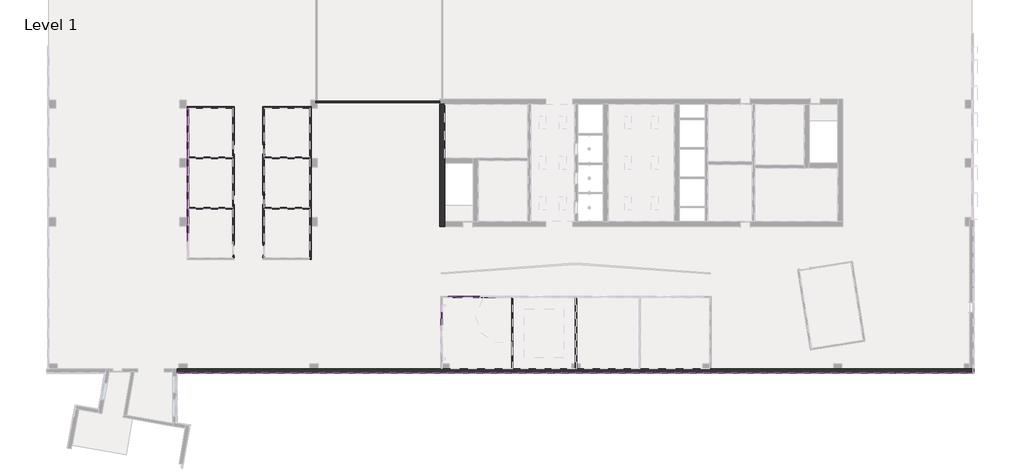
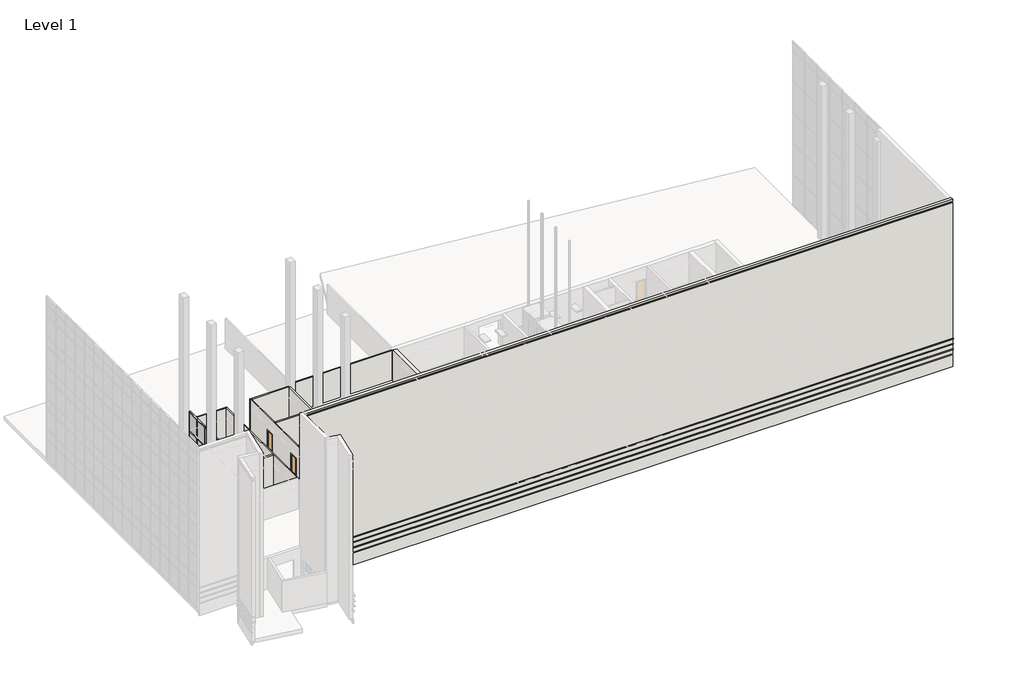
# One storey, part 6 of 23: 50 members, 18 plates, 15 walls, 4 doors, 3 proxies.
"""IFC4 building model written with IfcOpenShell, lengths in millimetres."""

from ifc_helpers import new_model, si_unit, frame, origin, origin_with_axes, place, context, project, spatial, polyline, outline, extrude, faceted_brep, transform, mapped, element, save
from components import door_82111de5, door_92889684, member_fc09b6aa, member_75074519, member_9597caa3, member_b2bde9e6, member_131a91bd, member_8e4b14e5, member_6186cc23, member_73a57e35, member_5adcf121, member_e7ed5742, member_d635bea1, member_19b6149e, system_panel_glazed_f771dc8d, system_panel_glazed_f1d9fa5b, system_panel_glazed_9bc9b24f, system_panel_glazed_76e4750d, system_panel_solid_9531ad7b, system_panel_solid_2d037642

model = new_model("IFC4")

# Units and contexts
model_context = context("Model", 3, world=origin())
ifc_project = project(units=[si_unit("LENGTHUNIT", "METRE", prefix="MILLI")], contexts=[model_context])

# Site, building, storey
site = spatial("IfcSite", under=ifc_project)
building = spatial("IfcBuilding", under=site)
storey = spatial("IfcBuildingStorey", under=building, Name="Level 1", Elevation=0.0)

# Proxies
placement = place(None, origin())
element("IfcBuildingElementProxy", 1, Name="Reveals", at=placement, inside=storey, context=model_context, shape_type="SweptSolid", body=[
    extrude(outline(polyline([(15157.6054088, -28056.8103492), (15249.6804088, -28148.8853492), (-57009.4125003, -28148.8853492), (-57101.4875003, -28056.8103492), (15157.6054088, -28056.8103492)])), frame((0.0, 0.0, 1625.6), z_axis=(0.0, 0.0, 1.0), x_axis=(1.0, 0.0, 0.0)), (0.0, 0.0, 1.0), 67.7333333),
])
element("IfcBuildingElementProxy", 2, Name="Reveals", at=placement, inside=storey, context=model_context, shape_type="SweptSolid", body=[
    extrude(outline(polyline([(15157.6054088, -28056.8103492), (15249.6804088, -28148.8853492), (-57009.4125003, -28148.8853492), (-57101.4875003, -28056.8103492), (15157.6054088, -28056.8103492)])), frame((0.0, 0.0, 2235.2), z_axis=(0.0, 0.0, 1.0), x_axis=(1.0, 0.0, 0.0)), (0.0, 0.0, 1.0), 67.7333333),
])
element("IfcBuildingElementProxy", 3, Name="Reveals", at=placement, inside=storey, context=model_context, shape_type="SweptSolid", body=[
    extrude(outline(polyline([(15157.6054088, -28056.8103492), (15249.6804088, -28148.8853492), (-57009.4125003, -28148.8853492), (-57101.4875003, -28056.8103492), (15157.6054088, -28056.8103492)])), frame((0.0, 0.0, 2844.8), z_axis=(0.0, 0.0, 1.0), x_axis=(1.0, 0.0, 0.0)), (0.0, 0.0, 1.0), 67.7333333),
])

# Doors
door_shape = door_82111de5(model_context)
element("IfcDoor", 4, ObjectType="Single-Flush : 34\" x 80\"", at=placement, inside=storey, context=model_context, shape_type="MappedRepresentation", body=[
    mapped(door_shape, transform((-51923.5856498, -12385.0103492, 0.0), x_axis=(0.0, -1.0, 0.0), y_axis=(1.0, 0.0, 0.0), z_axis=(0.0, 0.0, 1.0))),
])
element("IfcDoor", 5, ObjectType="Single-Flush : 34\" x 80\"", at=placement, inside=storey, context=model_context, shape_type="MappedRepresentation", body=[
    mapped(door_shape, transform((-51923.5856498, -7813.0103492, 0.0), x_axis=(0.0, -1.0, 0.0), y_axis=(1.0, 0.0, 0.0), z_axis=(0.0, 0.0, 1.0))),
])
door_2_shape = door_92889684(model_context)
element("IfcDoor", 6, ObjectType="Single-Flush : 34\" x 80\"", at=placement, inside=storey, context=model_context, shape_type="MappedRepresentation", body=[
    mapped(door_2_shape, transform((-49194.8999355, -12385.0103492, 0.0), x_axis=(0.0, -1.0, 0.0), y_axis=(1.0, 0.0, 0.0), z_axis=(0.0, 0.0, 1.0))),
])
element("IfcDoor", 7, ObjectType="Single-Flush : 34\" x 80\"", at=placement, inside=storey, context=model_context, shape_type="MappedRepresentation", body=[
    mapped(door_2_shape, transform((-49194.8999355, -7813.0103492, 0.0), x_axis=(0.0, -1.0, 0.0), y_axis=(1.0, 0.0, 0.0), z_axis=(0.0, 0.0, 1.0))),
])

# Members
member_shape = member_fc09b6aa(model_context)
element("IfcMember", 8, ObjectType="Rectangular Mullion : 2.5\" x 5\" rectangular", at=placement, inside=storey, context=model_context, shape_type="MappedRepresentation", body=[
    mapped(member_shape, transform((-56063.7856498, -14635.7325714, 2413.0), x_axis=(0.0, 0.0, 1.0), y_axis=(1.0, 0.0, 0.0), z_axis=(0.0, 1.0, 0.0))),
])
element("IfcMember", 9, ObjectType="Rectangular Mullion : 2.5\" x 5\" rectangular", at=placement, inside=storey, context=model_context, shape_type="MappedRepresentation", body=[
    mapped(member_shape, transform((-56063.7856498, -13125.8436825, 2413.0), x_axis=(0.0, 0.0, 1.0), y_axis=(1.0, 0.0, 0.0), z_axis=(0.0, 1.0, 0.0))),
])
element("IfcMember", 10, ObjectType="Rectangular Mullion : 2.5\" x 5\" rectangular", at=placement, inside=storey, context=model_context, shape_type="MappedRepresentation", body=[
    mapped(member_shape, transform((-56063.7856498, -11615.9547936, 2413.0), x_axis=(0.0, 0.0, 1.0), y_axis=(1.0, 0.0, 0.0), z_axis=(0.0, 1.0, 0.0))),
])
element("IfcMember", 11, ObjectType="Rectangular Mullion : 2.5\" x 5\" rectangular", at=placement, inside=storey, context=model_context, shape_type="MappedRepresentation", body=[
    mapped(member_shape, transform((-56063.7856498, -10106.0659048, 2413.0), x_axis=(0.0, 0.0, 1.0), y_axis=(1.0, 0.0, 0.0), z_axis=(0.0, 1.0, 0.0))),
])
element("IfcMember", 12, ObjectType="Rectangular Mullion : 2.5\" x 5\" rectangular", at=placement, inside=storey, context=model_context, shape_type="MappedRepresentation", body=[
    mapped(member_shape, transform((-56063.7856498, -8596.1770159, 2413.0), x_axis=(0.0, 0.0, 1.0), y_axis=(1.0, 0.0, 0.0), z_axis=(0.0, 1.0, 0.0))),
])
element("IfcMember", 13, ObjectType="Rectangular Mullion : 2.5\" x 5\" rectangular", at=placement, inside=storey, context=model_context, shape_type="MappedRepresentation", body=[
    mapped(member_shape, transform((-56063.7856498, -7086.288127, 2413.0), x_axis=(0.0, 0.0, 1.0), y_axis=(1.0, 0.0, 0.0), z_axis=(0.0, 1.0, 0.0))),
])
element("IfcMember", 14, ObjectType="Rectangular Mullion : 2.5\" x 5\" rectangular", at=placement, inside=storey, context=model_context, shape_type="MappedRepresentation", body=[
    mapped(member_shape, transform((-56063.7856498, -5576.3992381, 2413.0), x_axis=(0.0, 0.0, 1.0), y_axis=(1.0, 0.0, 0.0), z_axis=(0.0, 1.0, 0.0))),
])
member_2_shape = member_75074519(model_context)
element("IfcMember", 15, ObjectType="Rectangular Mullion : 2.5\" x 5\" rectangular", at=placement, inside=storey, context=model_context, shape_type="MappedRepresentation", body=[
    mapped(member_2_shape, transform((-33067.7142212, -22546.5978492, 2413.0), x_axis=(0.0, 0.0, 1.0), y_axis=(1.0, 0.0, 0.0), z_axis=(0.0, 1.0, 0.0))),
])
member_3_shape = member_9597caa3(model_context)
element("IfcMember", 16, ObjectType="Rectangular Mullion : 2.5\" x 5\" rectangular", at=placement, inside=storey, context=model_context, shape_type="MappedRepresentation", body=[
    mapped(member_3_shape, transform((-56063.7856498, -14635.7325714, 38.1), x_axis=(0.0, 1.0, 0.0), y_axis=(1.0, 0.0, 0.0), z_axis=(0.0, 0.0, -1.0))),
])
element("IfcMember", 17, ObjectType="Rectangular Mullion : 2.5\" x 5\" rectangular", at=placement, inside=storey, context=model_context, shape_type="MappedRepresentation", body=[
    mapped(member_3_shape, transform((-56063.7856498, -13125.8436825, 38.1), x_axis=(0.0, 1.0, 0.0), y_axis=(1.0, 0.0, 0.0), z_axis=(0.0, 0.0, -1.0))),
])
element("IfcMember", 18, ObjectType="Rectangular Mullion : 2.5\" x 5\" rectangular", at=placement, inside=storey, context=model_context, shape_type="MappedRepresentation", body=[
    mapped(member_3_shape, transform((-56063.7856498, -11615.9547936, 38.1), x_axis=(0.0, 1.0, 0.0), y_axis=(1.0, 0.0, 0.0), z_axis=(0.0, 0.0, -1.0))),
])
element("IfcMember", 19, ObjectType="Rectangular Mullion : 2.5\" x 5\" rectangular", at=placement, inside=storey, context=model_context, shape_type="MappedRepresentation", body=[
    mapped(member_3_shape, transform((-56063.7856498, -10106.0659048, 38.1), x_axis=(0.0, 1.0, 0.0), y_axis=(1.0, 0.0, 0.0), z_axis=(0.0, 0.0, -1.0))),
])
element("IfcMember", 20, ObjectType="Rectangular Mullion : 2.5\" x 5\" rectangular", at=placement, inside=storey, context=model_context, shape_type="MappedRepresentation", body=[
    mapped(member_3_shape, transform((-56063.7856498, -8596.1770159, 38.1), x_axis=(0.0, 1.0, 0.0), y_axis=(1.0, 0.0, 0.0), z_axis=(0.0, 0.0, -1.0))),
])
element("IfcMember", 21, ObjectType="Rectangular Mullion : 2.5\" x 5\" rectangular", at=placement, inside=storey, context=model_context, shape_type="MappedRepresentation", body=[
    mapped(member_3_shape, transform((-56063.7856498, -7086.288127, 38.1), x_axis=(0.0, 1.0, 0.0), y_axis=(1.0, 0.0, 0.0), z_axis=(0.0, 0.0, -1.0))),
])
element("IfcMember", 22, ObjectType="Rectangular Mullion : 2.5\" x 5\" rectangular", at=placement, inside=storey, context=model_context, shape_type="MappedRepresentation", body=[
    mapped(member_3_shape, transform((-56063.7856498, -5576.3992381, 38.1), x_axis=(0.0, 1.0, 0.0), y_axis=(1.0, 0.0, 0.0), z_axis=(0.0, 0.0, -1.0))),
])
member_4_shape = member_b2bde9e6(model_context)
element("IfcMember", 23, ObjectType="Rectangular Mullion : 2.5\" x 5\" rectangular", at=placement, inside=storey, context=model_context, shape_type="MappedRepresentation", body=[
    mapped(member_4_shape, transform((-56063.7856498, -4066.5103492, 38.1), x_axis=(0.0, 1.0, 0.0), y_axis=(1.0, 0.0, 0.0), z_axis=(0.0, 0.0, -1.0))),
])
member_5_shape = member_131a91bd(model_context)
element("IfcMember", 24, ObjectType="Rectangular Mullion : 2.5\" x 5\" rectangular", at=placement, inside=storey, context=model_context, shape_type="MappedRepresentation", body=[
    mapped(member_5_shape, transform((-56063.7856498, -4066.5103492, 4673.6), x_axis=(0.0, 0.0, 1.0), y_axis=(1.0, 0.0, 0.0), z_axis=(0.0, 1.0, 0.0))),
])
element("IfcMember", 25, ObjectType="Rectangular Mullion : 2.5\" x 5\" rectangular", at=placement, inside=storey, context=model_context, shape_type="MappedRepresentation", body=[
    mapped(member_5_shape, transform((-56063.7856498, -14635.7325714, 4673.6), x_axis=(0.0, 0.0, 1.0), y_axis=(1.0, 0.0, 0.0), z_axis=(0.0, 1.0, 0.0))),
])
element("IfcMember", 26, ObjectType="Rectangular Mullion : 2.5\" x 5\" rectangular", at=placement, inside=storey, context=model_context, shape_type="MappedRepresentation", body=[
    mapped(member_5_shape, transform((-56063.7856498, -13125.8436825, 4673.6), x_axis=(0.0, 0.0, 1.0), y_axis=(1.0, 0.0, 0.0), z_axis=(0.0, 1.0, 0.0))),
])
element("IfcMember", 27, ObjectType="Rectangular Mullion : 2.5\" x 5\" rectangular", at=placement, inside=storey, context=model_context, shape_type="MappedRepresentation", body=[
    mapped(member_5_shape, transform((-56063.7856498, -11615.9547936, 4673.6), x_axis=(0.0, 0.0, 1.0), y_axis=(1.0, 0.0, 0.0), z_axis=(0.0, 1.0, 0.0))),
])
element("IfcMember", 28, ObjectType="Rectangular Mullion : 2.5\" x 5\" rectangular", at=placement, inside=storey, context=model_context, shape_type="MappedRepresentation", body=[
    mapped(member_5_shape, transform((-56063.7856498, -10106.0659048, 4673.6), x_axis=(0.0, 0.0, 1.0), y_axis=(1.0, 0.0, 0.0), z_axis=(0.0, 1.0, 0.0))),
])
element("IfcMember", 29, ObjectType="Rectangular Mullion : 2.5\" x 5\" rectangular", at=placement, inside=storey, context=model_context, shape_type="MappedRepresentation", body=[
    mapped(member_5_shape, transform((-56063.7856498, -8596.1770159, 4673.6), x_axis=(0.0, 0.0, 1.0), y_axis=(1.0, 0.0, 0.0), z_axis=(0.0, 1.0, 0.0))),
])
element("IfcMember", 30, ObjectType="Rectangular Mullion : 2.5\" x 5\" rectangular", at=placement, inside=storey, context=model_context, shape_type="MappedRepresentation", body=[
    mapped(member_5_shape, transform((-56063.7856498, -7086.288127, 4673.6), x_axis=(0.0, 0.0, 1.0), y_axis=(1.0, 0.0, 0.0), z_axis=(0.0, 1.0, 0.0))),
])
element("IfcMember", 31, ObjectType="Rectangular Mullion : 2.5\" x 5\" rectangular", at=placement, inside=storey, context=model_context, shape_type="MappedRepresentation", body=[
    mapped(member_5_shape, transform((-56063.7856498, -5576.3992381, 4673.6), x_axis=(0.0, 0.0, 1.0), y_axis=(1.0, 0.0, 0.0), z_axis=(0.0, 1.0, 0.0))),
])
element("IfcMember", 32, ObjectType="Rectangular Mullion : 2.5\" x 5\" rectangular", at=placement, inside=storey, context=model_context, shape_type="MappedRepresentation", body=[
    mapped(member_5_shape, transform((-56063.7856498, -14635.7325714, -25.4), x_axis=(0.0, 0.0, -1.0), y_axis=(1.0, 0.0, 0.0), z_axis=(0.0, -1.0, 0.0))),
])
element("IfcMember", 33, ObjectType="Rectangular Mullion : 2.5\" x 5\" rectangular", at=placement, inside=storey, context=model_context, shape_type="MappedRepresentation", body=[
    mapped(member_5_shape, transform((-56063.7856498, -13125.8436825, -25.4), x_axis=(0.0, 0.0, -1.0), y_axis=(1.0, 0.0, 0.0), z_axis=(0.0, -1.0, 0.0))),
])
element("IfcMember", 34, ObjectType="Rectangular Mullion : 2.5\" x 5\" rectangular", at=placement, inside=storey, context=model_context, shape_type="MappedRepresentation", body=[
    mapped(member_5_shape, transform((-56063.7856498, -11615.9547936, -25.4), x_axis=(0.0, 0.0, -1.0), y_axis=(1.0, 0.0, 0.0), z_axis=(0.0, -1.0, 0.0))),
])
element("IfcMember", 35, ObjectType="Rectangular Mullion : 2.5\" x 5\" rectangular", at=placement, inside=storey, context=model_context, shape_type="MappedRepresentation", body=[
    mapped(member_5_shape, transform((-56063.7856498, -10106.0659048, -25.4), x_axis=(0.0, 0.0, -1.0), y_axis=(1.0, 0.0, 0.0), z_axis=(0.0, -1.0, 0.0))),
])
element("IfcMember", 36, ObjectType="Rectangular Mullion : 2.5\" x 5\" rectangular", at=placement, inside=storey, context=model_context, shape_type="MappedRepresentation", body=[
    mapped(member_5_shape, transform((-56063.7856498, -8596.1770159, -25.4), x_axis=(0.0, 0.0, -1.0), y_axis=(1.0, 0.0, 0.0), z_axis=(0.0, -1.0, 0.0))),
])
element("IfcMember", 37, ObjectType="Rectangular Mullion : 2.5\" x 5\" rectangular", at=placement, inside=storey, context=model_context, shape_type="MappedRepresentation", body=[
    mapped(member_5_shape, transform((-56063.7856498, -7086.288127, -25.4), x_axis=(0.0, 0.0, -1.0), y_axis=(1.0, 0.0, 0.0), z_axis=(0.0, -1.0, 0.0))),
])
element("IfcMember", 38, ObjectType="Rectangular Mullion : 2.5\" x 5\" rectangular", at=placement, inside=storey, context=model_context, shape_type="MappedRepresentation", body=[
    mapped(member_5_shape, transform((-56063.7856498, -5576.3992381, -25.4), x_axis=(0.0, 0.0, -1.0), y_axis=(1.0, 0.0, 0.0), z_axis=(0.0, -1.0, 0.0))),
])
member_6_shape = member_8e4b14e5(model_context)
element("IfcMember", 39, ObjectType="Rectangular Mullion : 2.5\" x 5\" rectangular", at=placement, inside=storey, context=model_context, shape_type="MappedRepresentation", body=[
    mapped(member_6_shape, transform((-56063.7856498, -4130.0103492, 2413.0), x_axis=(0.0, 0.0, 1.0), y_axis=(1.0, 0.0, 0.0), z_axis=(0.0, 1.0, 0.0))),
])
member_7_shape = member_6186cc23(model_context)
element("IfcMember", 40, ObjectType="Rectangular Mullion : 2.5\" x 5\" rectangular", at=placement, inside=storey, context=model_context, shape_type="MappedRepresentation", body=[
    mapped(member_7_shape, transform((-56063.7856498, -14635.7325714, 2444.75), x_axis=(0.0, 1.0, 0.0), y_axis=(1.0, 0.0, 0.0), z_axis=(0.0, 0.0, -1.0))),
])
element("IfcMember", 41, ObjectType="Rectangular Mullion : 2.5\" x 5\" rectangular", at=placement, inside=storey, context=model_context, shape_type="MappedRepresentation", body=[
    mapped(member_7_shape, transform((-56063.7856498, -13125.8436825, 2444.75), x_axis=(0.0, 1.0, 0.0), y_axis=(1.0, 0.0, 0.0), z_axis=(0.0, 0.0, -1.0))),
])
element("IfcMember", 42, ObjectType="Rectangular Mullion : 2.5\" x 5\" rectangular", at=placement, inside=storey, context=model_context, shape_type="MappedRepresentation", body=[
    mapped(member_7_shape, transform((-56063.7856498, -11615.9547936, 2444.75), x_axis=(0.0, 1.0, 0.0), y_axis=(1.0, 0.0, 0.0), z_axis=(0.0, 0.0, -1.0))),
])
element("IfcMember", 43, ObjectType="Rectangular Mullion : 2.5\" x 5\" rectangular", at=placement, inside=storey, context=model_context, shape_type="MappedRepresentation", body=[
    mapped(member_7_shape, transform((-56063.7856498, -10106.0659048, 2444.75), x_axis=(0.0, 1.0, 0.0), y_axis=(1.0, 0.0, 0.0), z_axis=(0.0, 0.0, -1.0))),
])
element("IfcMember", 44, ObjectType="Rectangular Mullion : 2.5\" x 5\" rectangular", at=placement, inside=storey, context=model_context, shape_type="MappedRepresentation", body=[
    mapped(member_7_shape, transform((-56063.7856498, -8596.1770159, 2444.75), x_axis=(0.0, 1.0, 0.0), y_axis=(1.0, 0.0, 0.0), z_axis=(0.0, 0.0, -1.0))),
])
element("IfcMember", 45, ObjectType="Rectangular Mullion : 2.5\" x 5\" rectangular", at=placement, inside=storey, context=model_context, shape_type="MappedRepresentation", body=[
    mapped(member_7_shape, transform((-56063.7856498, -7086.288127, 2444.75), x_axis=(0.0, 1.0, 0.0), y_axis=(1.0, 0.0, 0.0), z_axis=(0.0, 0.0, -1.0))),
])
element("IfcMember", 46, ObjectType="Rectangular Mullion : 2.5\" x 5\" rectangular", at=placement, inside=storey, context=model_context, shape_type="MappedRepresentation", body=[
    mapped(member_7_shape, transform((-56063.7856498, -5576.3992381, 2444.75), x_axis=(0.0, 1.0, 0.0), y_axis=(1.0, 0.0, 0.0), z_axis=(0.0, 0.0, -1.0))),
])
member_8_shape = member_73a57e35(model_context)
element("IfcMember", 47, ObjectType="Rectangular Mullion : 2.5\" x 5\" rectangular", at=placement, inside=storey, context=model_context, shape_type="MappedRepresentation", body=[
    mapped(member_8_shape, transform((-56063.7856498, -4066.5103492, 2413.0), x_axis=(0.0, 1.0, 0.0), y_axis=(1.0, 0.0, 0.0), z_axis=(0.0, 0.0, -1.0))),
])
member_9_shape = member_5adcf121(model_context)
element("IfcMember", 48, ObjectType="Rectangular Mullion : 2.5\" x 5\" rectangular", at=placement, inside=storey, context=model_context, shape_type="MappedRepresentation", body=[
    mapped(member_9_shape, transform((-33067.7142212, -23765.7978492, 38.1), x_axis=(0.0, 1.0, 0.0), y_axis=(1.0, 0.0, 0.0), z_axis=(0.0, 0.0, -1.0))),
])
element("IfcMember", 49, ObjectType="Rectangular Mullion : 2.5\" x 5\" rectangular", at=placement, inside=storey, context=model_context, shape_type="MappedRepresentation", body=[
    mapped(member_9_shape, transform((-30990.1302926, -21198.8103492, 38.1), x_axis=(1.0, 0.0, 0.0), y_axis=(0.0, -1.0, 0.0), z_axis=(0.0, 0.0, -1.0))),
])
member_10_shape = member_e7ed5742(model_context)
element("IfcMember", 50, ObjectType="Rectangular Mullion : 2.5\" x 5\" rectangular", at=placement, inside=storey, context=model_context, shape_type="MappedRepresentation", body=[
    mapped(member_10_shape, transform((-33067.7142212, -22546.5978492, 38.1), x_axis=(0.0, 1.0, 0.0), y_axis=(1.0, 0.0, 0.0), z_axis=(0.0, 0.0, -1.0))),
])
element("IfcMember", 51, ObjectType="Rectangular Mullion : 2.5\" x 5\" rectangular", at=placement, inside=storey, context=model_context, shape_type="MappedRepresentation", body=[
    mapped(member_10_shape, transform((-32436.3427926, -21198.8103492, 2349.5), x_axis=(-1.0, 0.0, 0.0), y_axis=(0.0, -1.0, 0.0), z_axis=(0.0, 0.0, 1.0))),
])
member_11_shape = member_d635bea1(model_context)
element("IfcMember", 52, ObjectType="Rectangular Mullion : 2.5\" x 5\" rectangular", at=placement, inside=storey, context=model_context, shape_type="MappedRepresentation", body=[
    mapped(member_11_shape, transform((-33067.7142212, -23797.5478492, -25.4), x_axis=(0.0, 0.0, -1.0), y_axis=(1.0, 0.0, 0.0), z_axis=(0.0, -1.0, 0.0))),
])
member_12_shape = member_19b6149e(model_context)
element("IfcMember", 53, ObjectType="Rectangular Mullion : 2.5\" x 5\" rectangular", at=placement, inside=storey, context=model_context, shape_type="MappedRepresentation", body=[
    mapped(member_12_shape, transform((-30990.1302926, -21198.8103492, 2413.0), x_axis=(0.0, 0.0, 1.0), y_axis=(0.0, -1.0, 0.0), z_axis=(1.0, 0.0, 0.0))),
])
element("IfcMember", 54, ObjectType="Rectangular Mullion : 2.5\" x 5\" rectangular", at=placement, inside=storey, context=model_context, shape_type="MappedRepresentation", body=[
    mapped(member_12_shape, transform((-29543.9177926, -21198.8103492, 2413.0), x_axis=(0.0, 0.0, 1.0), y_axis=(0.0, -1.0, 0.0), z_axis=(1.0, 0.0, 0.0))),
])
element("IfcMember", 55, ObjectType="Rectangular Mullion : 2.5\" x 5\" rectangular", at=placement, inside=storey, context=model_context, shape_type="MappedRepresentation", body=[
    mapped(member_12_shape, transform((-32436.3427926, -21198.8103492, -25.4), x_axis=(0.0, 0.0, -1.0), y_axis=(0.0, -1.0, 0.0), z_axis=(-1.0, 0.0, 0.0))),
])
element("IfcMember", 56, ObjectType="Rectangular Mullion : 2.5\" x 5\" rectangular", at=placement, inside=storey, context=model_context, shape_type="MappedRepresentation", body=[
    mapped(member_12_shape, transform((-30990.1302926, -21198.8103492, -25.4), x_axis=(0.0, 0.0, -1.0), y_axis=(0.0, -1.0, 0.0), z_axis=(-1.0, 0.0, 0.0))),
])
element("IfcMember", 57, ObjectType="Rectangular Mullion : 2.5\" x 5\" rectangular", at=placement, inside=storey, context=model_context, shape_type="MappedRepresentation", body=[
    mapped(member_12_shape, transform((-29543.9177926, -21198.8103492, -25.4), x_axis=(0.0, 0.0, -1.0), y_axis=(0.0, -1.0, 0.0), z_axis=(-1.0, 0.0, 0.0))),
])

# Plates
system_panel_glazed_shape = system_panel_glazed_f771dc8d(model_context)
element("IfcPlate", 58, ObjectType="System Panel : Glazed", at=placement, inside=storey, context=model_context, shape_type="MappedRepresentation", body=[
    mapped(system_panel_glazed_shape, transform((-56063.7856498, -4837.3297936, 38.1), x_axis=(0.0, 1.0, 0.0), y_axis=(-1.0, 0.0, 0.0), z_axis=(0.0, 0.0, 1.0))),
])
system_panel_glazed_2_shape = system_panel_glazed_f1d9fa5b(model_context)
element("IfcPlate", 59, ObjectType="System Panel : Glazed", at=placement, inside=storey, context=model_context, shape_type="MappedRepresentation", body=[
    mapped(system_panel_glazed_2_shape, transform((-56063.7856498, -15390.6770159, 38.1), x_axis=(0.0, 1.0, 0.0), y_axis=(-1.0, 0.0, 0.0), z_axis=(0.0, 0.0, 1.0))),
])
element("IfcPlate", 60, ObjectType="System Panel : Glazed", at=placement, inside=storey, context=model_context, shape_type="MappedRepresentation", body=[
    mapped(system_panel_glazed_2_shape, transform((-56063.7856498, -13880.788127, 38.1), x_axis=(0.0, 1.0, 0.0), y_axis=(-1.0, 0.0, 0.0), z_axis=(0.0, 0.0, 1.0))),
])
element("IfcPlate", 61, ObjectType="System Panel : Glazed", at=placement, inside=storey, context=model_context, shape_type="MappedRepresentation", body=[
    mapped(system_panel_glazed_2_shape, transform((-56063.7856498, -12370.8992381, 38.1), x_axis=(0.0, 1.0, 0.0), y_axis=(-1.0, 0.0, 0.0), z_axis=(0.0, 0.0, 1.0))),
])
element("IfcPlate", 62, ObjectType="System Panel : Glazed", at=placement, inside=storey, context=model_context, shape_type="MappedRepresentation", body=[
    mapped(system_panel_glazed_2_shape, transform((-56063.7856498, -10861.0103492, 38.1), x_axis=(0.0, 1.0, 0.0), y_axis=(-1.0, 0.0, 0.0), z_axis=(0.0, 0.0, 1.0))),
])
element("IfcPlate", 63, ObjectType="System Panel : Glazed", at=placement, inside=storey, context=model_context, shape_type="MappedRepresentation", body=[
    mapped(system_panel_glazed_2_shape, transform((-56063.7856498, -9351.1214603, 38.1), x_axis=(0.0, 1.0, 0.0), y_axis=(-1.0, 0.0, 0.0), z_axis=(0.0, 0.0, 1.0))),
])
element("IfcPlate", 64, ObjectType="System Panel : Glazed", at=placement, inside=storey, context=model_context, shape_type="MappedRepresentation", body=[
    mapped(system_panel_glazed_2_shape, transform((-56063.7856498, -7841.2325714, 38.1), x_axis=(0.0, 1.0, 0.0), y_axis=(-1.0, 0.0, 0.0), z_axis=(0.0, 0.0, 1.0))),
])
element("IfcPlate", 65, ObjectType="System Panel : Glazed", at=placement, inside=storey, context=model_context, shape_type="MappedRepresentation", body=[
    mapped(system_panel_glazed_2_shape, transform((-56063.7856498, -6331.3436825, 38.1), x_axis=(0.0, 1.0, 0.0), y_axis=(-1.0, 0.0, 0.0), z_axis=(0.0, 0.0, 1.0))),
])
system_panel_glazed_3_shape = system_panel_glazed_9bc9b24f(model_context)
element("IfcPlate", 66, ObjectType="System Panel : Glazed", at=placement, inside=storey, context=model_context, shape_type="MappedRepresentation", body=[
    mapped(system_panel_glazed_3_shape, transform((-31697.3615426, -21198.8103492, 38.1), x_axis=(1.0, 0.0, 0.0), y_axis=(0.0, 1.0, 0.0), z_axis=(0.0, 0.0, 1.0))),
])
system_panel_glazed_4_shape = system_panel_glazed_76e4750d(model_context)
element("IfcPlate", 67, ObjectType="System Panel : Glazed", at=placement, inside=storey, context=model_context, shape_type="MappedRepresentation", body=[
    mapped(system_panel_glazed_4_shape, transform((-30267.0240426, -21198.8103492, 38.1), x_axis=(1.0, 0.0, 0.0), y_axis=(0.0, 1.0, 0.0), z_axis=(0.0, 0.0, 1.0))),
])
system_panel_solid_shape = system_panel_solid_9531ad7b(model_context)
element("IfcPlate", 68, ObjectType="System Panel : Solid", at=placement, inside=storey, context=model_context, shape_type="MappedRepresentation", body=[
    mapped(system_panel_solid_shape, transform((-56063.7856498, -4837.3297936, 2444.75), x_axis=(0.0, 1.0, 0.0), y_axis=(-1.0, 0.0, 0.0), z_axis=(0.0, 0.0, 1.0))),
])
system_panel_solid_2_shape = system_panel_solid_2d037642(model_context)
element("IfcPlate", 69, ObjectType="System Panel : Solid", at=placement, inside=storey, context=model_context, shape_type="MappedRepresentation", body=[
    mapped(system_panel_solid_2_shape, transform((-56063.7856498, -15390.6770159, 2444.75), x_axis=(0.0, 1.0, 0.0), y_axis=(-1.0, 0.0, 0.0), z_axis=(0.0, 0.0, 1.0))),
])
element("IfcPlate", 70, ObjectType="System Panel : Solid", at=placement, inside=storey, context=model_context, shape_type="MappedRepresentation", body=[
    mapped(system_panel_solid_2_shape, transform((-56063.7856498, -13880.788127, 2444.75), x_axis=(0.0, 1.0, 0.0), y_axis=(-1.0, 0.0, 0.0), z_axis=(0.0, 0.0, 1.0))),
])
element("IfcPlate", 71, ObjectType="System Panel : Solid", at=placement, inside=storey, context=model_context, shape_type="MappedRepresentation", body=[
    mapped(system_panel_solid_2_shape, transform((-56063.7856498, -12370.8992381, 2444.75), x_axis=(0.0, 1.0, 0.0), y_axis=(-1.0, 0.0, 0.0), z_axis=(0.0, 0.0, 1.0))),
])
element("IfcPlate", 72, ObjectType="System Panel : Solid", at=placement, inside=storey, context=model_context, shape_type="MappedRepresentation", body=[
    mapped(system_panel_solid_2_shape, transform((-56063.7856498, -10861.0103492, 2444.75), x_axis=(0.0, 1.0, 0.0), y_axis=(-1.0, 0.0, 0.0), z_axis=(0.0, 0.0, 1.0))),
])
element("IfcPlate", 73, ObjectType="System Panel : Solid", at=placement, inside=storey, context=model_context, shape_type="MappedRepresentation", body=[
    mapped(system_panel_solid_2_shape, transform((-56063.7856498, -9351.1214603, 2444.75), x_axis=(0.0, 1.0, 0.0), y_axis=(-1.0, 0.0, 0.0), z_axis=(0.0, 0.0, 1.0))),
])
element("IfcPlate", 74, ObjectType="System Panel : Solid", at=placement, inside=storey, context=model_context, shape_type="MappedRepresentation", body=[
    mapped(system_panel_solid_2_shape, transform((-56063.7856498, -7841.2325714, 2444.75), x_axis=(0.0, 1.0, 0.0), y_axis=(-1.0, 0.0, 0.0), z_axis=(0.0, 0.0, 1.0))),
])
element("IfcPlate", 75, ObjectType="System Panel : Solid", at=placement, inside=storey, context=model_context, shape_type="MappedRepresentation", body=[
    mapped(system_panel_solid_2_shape, transform((-56063.7856498, -6331.3436825, 2444.75), x_axis=(0.0, 1.0, 0.0), y_axis=(-1.0, 0.0, 0.0), z_axis=(0.0, 0.0, 1.0))),
])

# Walls
element("IfcWall", 76, ObjectType="Core-shaft 18\" Concrete", at=placement, inside=storey, context=model_context, shape_type="Brep", body=[
    faceted_brep([(-32750.2142212, -14823.4103492, 0.0), (-32750.2142212, -14366.2103492, 0.0), (-32750.2142212, -9032.2103492, 0.0), (-32750.2142212, -8575.0103492, 0.0), (-32750.2142212, -3698.2103492, 0.0), (-32750.2142212, -3698.2103492, 3657.6), (-32750.2142212, -8575.0103492, 3657.6), (-32750.2142212, -9032.2103492, 3657.6), (-32750.2142212, -14366.2103492, 3657.6), (-32750.2142212, -14823.4103492, 3657.6), (-33207.4142212, -14823.4103492, 0.0), (-33207.4142212, -14823.4103492, 3657.6), (-33207.4142212, -3698.2103492, 3657.6), (-33207.4142212, -3698.2103492, 0.0)], [[[0, 1, 2, 3, 4, 5, 6, 7, 8, 9]], [[10, 11, 12, 13]], [[4, 3, 2, 1, 0, 10, 13]], [[9, 8, 7, 6, 5, 12, 11]], [[0, 9, 11, 10]], [[4, 13, 12, 5]]]),
])
element("IfcWall", 77, ObjectType="Exterior - Brick and CMU on MTL. Stud", at=placement, inside=storey, context=model_context, shape_type="Brep", body=[
    faceted_brep([(15183.0054088, -27729.7853492, 0.0), (14830.5804088, -27729.7853492, 0.0), (-8623.8427926, -27729.7853492, 0.0), (-8750.8427926, -27729.7853492, 0.0), (-15018.2927926, -27729.7853492, 0.0), (-15145.2927926, -27729.7853492, 0.0), (-20814.0285069, -27729.7853492, 0.0), (-20941.0285069, -27729.7853492, 0.0), (-26587.9927926, -27729.7853492, 0.0), (-26714.9927926, -27729.7853492, 0.0), (-33004.2142212, -27729.7853492, 0.0), (-33131.2142212, -27729.7853492, 0.0), (-57076.0875003, -27729.7853492, 0.0), (-57076.0875003, -27729.7853492, 19304.0), (14830.5804088, -27729.7853492, 19304.0), (15183.0054088, -27729.7853492, 19304.0), (15183.0054088, -27729.7853492, 19100.8), (15090.9304088, -27729.7853492, 19100.8), (15090.9304088, -27729.7853492, 18897.6), (15183.0054088, -27729.7853492, 18897.6), (15183.0054088, -27729.7853492, 2912.5333333), (15157.6054088, -27729.7853492, 2912.5333333), (15157.6054088, -27729.7853492, 2844.8), (15183.0054088, -27729.7853492, 2844.8), (15183.0054088, -27729.7853492, 2302.9333333), (15157.6054088, -27729.7853492, 2302.9333333), (15157.6054088, -27729.7853492, 2235.2), (15183.0054088, -27729.7853492, 2235.2), (15183.0054088, -27729.7853492, 1693.3333333), (15157.6054088, -27729.7853492, 1693.3333333), (15157.6054088, -27729.7853492, 1625.6), (15183.0054088, -27729.7853492, 1625.6), (15183.0054088, -27729.7853492, 1085.85), (15090.9304088, -27729.7853492, 1085.85), (15090.9304088, -27729.7853492, 1016.0), (15183.0054088, -27729.7853492, 1016.0), (15183.0054088, -28082.2103492, 19304.0), (-57076.0875003, -28082.2103492, 19304.0), (-57076.0875003, -28082.2103492, 19100.8), (15183.0054088, -28082.2103492, 19100.8), (-57076.0875003, -28082.2103492, -406.4), (15183.0054088, -28082.2103492, -406.4), (15183.0054088, -28082.2103492, 1016.0), (-57076.0875003, -28082.2103492, 1016.0), (-57076.0875003, -28082.2103492, 1693.3333333), (15183.0054088, -28082.2103492, 1693.3333333), (15183.0054088, -28082.2103492, 2235.2), (-57076.0875003, -28082.2103492, 2235.2), (15183.0054088, -28082.2103492, 1625.6), (-57076.0875003, -28082.2103492, 1625.6), (-57076.0875003, -28082.2103492, 1085.85), (15183.0054088, -28082.2103492, 1085.85), (-57076.0875003, -28082.2103492, 2302.9333333), (15183.0054088, -28082.2103492, 2302.9333333), (15183.0054088, -28082.2103492, 2844.8), (-57076.0875003, -28082.2103492, 2844.8), (-57076.0875003, -28082.2103492, 2912.5333333), (15183.0054088, -28082.2103492, 2912.5333333), (15183.0054088, -28082.2103492, 18897.6), (-57076.0875003, -28082.2103492, 18897.6), (15183.0054088, -27990.1353492, 0.0), (15090.9304088, -27990.1353492, 0.0), (-57076.0875003, -27990.1353492, 0.0), (15183.0054088, -27990.1353492, -406.4), (15090.9304088, -27990.1353492, -406.4), (-57076.0875003, -27990.1353492, -406.4), (15157.6054088, -28056.8103492, 1693.3333333), (-57076.0875003, -28056.8103492, 1693.3333333), (15157.6054088, -28056.8103492, 1625.6), (-57076.0875003, -28056.8103492, 1625.6), (15157.6054088, -28056.8103492, 2302.9333333), (-57076.0875003, -28056.8103492, 2302.9333333), (15157.6054088, -28056.8103492, 2235.2), (-57076.0875003, -28056.8103492, 2235.2), (15157.6054088, -28056.8103492, 2912.5333333), (-57076.0875003, -28056.8103492, 2912.5333333), (15157.6054088, -28056.8103492, 2844.8), (-57076.0875003, -28056.8103492, 2844.8), (15090.9304088, -27990.1353492, 1085.85), (-57076.0875003, -27990.1353492, 1085.85), (15090.9304088, -27990.1353492, 1016.0), (-57076.0875003, -27990.1353492, 1016.0), (15090.9304088, -27990.1353492, 18897.6), (-57076.0875003, -27990.1353492, 18897.6), (15090.9304088, -27990.1353492, 19100.8), (-57076.0875003, -27990.1353492, 19100.8)], [[[0, 1, 2, 3, 4, 5, 6, 7, 8, 9, 10, 11, 12, 13, 14, 15, 16, 17, 18, 19, 20, 21, 22, 23, 24, 25, 26, 27, 28, 29, 30, 31, 32, 33, 34, 35]], [[36, 37, 38, 39]], [[40, 41, 42, 43]], [[44, 45, 46, 47]], [[48, 49, 50, 51]], [[52, 53, 54, 55]], [[56, 57, 58, 59]], [[15, 14, 13, 37, 36]], [[12, 11, 10, 9, 8, 7, 6, 5, 4, 3, 2, 1, 0, 60, 61, 62]], [[62, 61, 60, 63, 64, 65]], [[66, 29, 28, 45, 44, 67]], [[30, 68, 69, 49, 48, 31]], [[66, 68, 30, 29]], [[68, 66, 67, 69]], [[70, 25, 24, 53, 52, 71]], [[26, 72, 73, 47, 46, 27]], [[70, 72, 26, 25]], [[72, 70, 71, 73]], [[74, 21, 20, 57, 56, 75]], [[22, 76, 77, 55, 54, 23]], [[74, 76, 22, 21]], [[76, 74, 75, 77]], [[78, 33, 32, 51, 50, 79]], [[34, 80, 81, 43, 42, 35]], [[78, 80, 34, 33]], [[80, 78, 79, 81]], [[18, 82, 83, 59, 58, 19]], [[84, 82, 18, 17]], [[85, 84, 17, 16, 39, 38]], [[82, 84, 85, 83]], [[37, 13, 12, 62, 65, 40, 43, 81, 79, 50, 49, 69, 67, 44, 47, 73, 71, 52, 55, 77, 75, 56, 59, 83, 85, 38]], [[15, 36, 39, 16]], [[45, 28, 27, 46]], [[31, 48, 51, 32]], [[53, 24, 23, 54]], [[57, 20, 19, 58]], [[60, 0, 35, 42, 41, 63]], [[41, 40, 65, 64, 63]]]),
])
element("IfcWall", 78, ObjectType="Generic - 5\"", at=placement, inside=storey, context=model_context, shape_type="Brep", body=[
    faceted_brep([(-33207.4142212, -3412.4603492, 0.0), (-44332.6142212, -3412.4603492, 0.0), (-44459.6142212, -3412.4603492, 0.0), (-44459.6142212, -3412.4603492, 3530.6), (-44332.6142212, -3412.4603492, 3530.6), (-33207.4142212, -3412.4603492, 3530.6), (-33207.4142212, -3539.4603492, 0.0), (-33207.4142212, -3539.4603492, 3530.6), (-44459.6142212, -3539.4603492, 3530.6), (-44459.6142212, -3539.4603492, 0.0)], [[[0, 1, 2, 3, 4, 5]], [[6, 7, 8, 9]], [[2, 1, 0, 6, 9]], [[5, 4, 3, 8, 7]], [[3, 2, 9, 8]], [[0, 5, 7, 6]]]),
])
element("IfcWall", 79, ObjectType="Interior - Generic - 5\"", at=placement, inside=storey, context=model_context, shape_type="SweptSolid", body=[
    extrude(outline(polyline([(-20814.0285069, -21262.3103492), (-20814.0285069, -27729.7853492), (-20941.0285069, -27729.7853492), (-20941.0285069, -21262.3103492), (-20814.0285069, -21262.3103492)])), origin_with_axes(), (0.0, 0.0, 1.0), 3657.6),
])
element("IfcWall", 80, ObjectType="Interior - Generic - 5\"", at=placement, inside=storey, context=model_context, shape_type="Brep", body=[
    faceted_brep([(-44864.1999355, -3939.5103492, 0.0), (-49258.3999355, -3939.5103492, 0.0), (-49258.3999355, -3939.5103492, 3657.6), (-44864.1999355, -3939.5103492, 3657.6), (-44864.1999355, -4066.5103492, 0.0), (-44864.1999355, -4066.5103492, 3657.6), (-44991.1999355, -4066.5103492, 3657.6), (-49131.3999355, -4066.5103492, 3657.6), (-49258.3999355, -4066.5103492, 3657.6), (-49258.3999355, -4066.5103492, 0.0), (-49131.3999355, -4066.5103492, 0.0), (-44991.1999355, -4066.5103492, 0.0)], [[[0, 1, 2, 3]], [[4, 5, 6, 7, 8, 9, 10, 11]], [[1, 0, 4, 11, 10, 9]], [[3, 2, 8, 7, 6, 5]], [[0, 3, 5, 4]], [[2, 1, 9, 8]]]),
])
element("IfcWall", 81, ObjectType="Interior - Generic - 5\"", at=placement, inside=storey, context=model_context, shape_type="Brep", body=[
    faceted_brep([(-44864.1999355, -17782.5103492, 0.0), (-44864.1999355, -4066.5103492, 0.0), (-44864.1999355, -4066.5103492, 3657.6), (-44864.1999355, -17782.5103492, 3657.6), (-44991.1999355, -17782.5103492, 0.0), (-44991.1999355, -17782.5103492, 3657.6), (-44991.1999355, -17655.5103492, 3657.6), (-44991.1999355, -13210.5103492, 3657.6), (-44991.1999355, -13083.5103492, 3657.6), (-44991.1999355, -8638.5103492, 3657.6), (-44991.1999355, -8511.5103492, 3657.6), (-44991.1999355, -4066.5103492, 3657.6), (-44991.1999355, -4066.5103492, 0.0), (-44991.1999355, -8511.5103492, 0.0), (-44991.1999355, -8638.5103492, 0.0), (-44991.1999355, -13083.5103492, 0.0), (-44991.1999355, -13210.5103492, 0.0), (-44991.1999355, -17655.5103492, 0.0)], [[[0, 1, 2, 3]], [[4, 5, 6, 7, 8, 9, 10, 11, 12, 13, 14, 15, 16, 17]], [[1, 0, 4, 17, 16, 15, 14, 13, 12]], [[3, 2, 11, 10, 9, 8, 7, 6, 5]], [[0, 3, 5, 4]], [[2, 1, 12, 11]]]),
])
element("IfcWall", 82, ObjectType="Interior - Generic - 5\"", at=placement, inside=storey, context=model_context, shape_type="SweptSolid", body=[
    extrude(outline(polyline([(-56127.2856498, -3939.5103492), (-56000.2856498, -3939.5103492), (-56000.2856498, -4066.5103492), (-56127.2856498, -4066.5103492), (-56127.2856498, -3939.5103492)])), origin_with_axes(), (0.0, 0.0, 1.0), 3657.6),
])
element("IfcWall", 83, ObjectType="Interior - Generic - 5\"", at=placement, inside=storey, context=model_context, shape_type="Brep", body=[
    faceted_brep([(-49131.3999355, -11953.2103492, 0.0), (-49131.3999355, -8638.5103492, 0.0), (-49131.3999355, -8511.5103492, 0.0), (-49131.3999355, -8244.8103492, 0.0), (-49131.3999355, -8244.8103492, 2032.0), (-49131.3999355, -7381.2103492, 2032.0), (-49131.3999355, -7381.2103492, 0.0), (-49131.3999355, -4066.5103492, 0.0), (-49131.3999355, -4066.5103492, 3657.6), (-49131.3999355, -8511.5103492, 3657.6), (-49131.3999355, -8638.5103492, 3657.6), (-49131.3999355, -13083.5103492, 3657.6), (-49131.3999355, -13210.5103492, 3657.6), (-49131.3999355, -17655.5103492, 3657.6), (-49131.3999355, -17655.5103492, 0.0), (-49131.3999355, -17388.8103492, 0.0), (-49131.3999355, -17388.8103492, 2032.0), (-49131.3999355, -16525.2103492, 2032.0), (-49131.3999355, -16525.2103492, 0.0), (-49131.3999355, -13210.5103492, 0.0), (-49131.3999355, -13083.5103492, 0.0), (-49131.3999355, -12816.8103492, 0.0), (-49131.3999355, -12816.8103492, 2032.0), (-49131.3999355, -11953.2103492, 2032.0), (-49258.3999355, -8244.8103492, 2032.0), (-49258.3999355, -8244.8103492, 0.0), (-49258.3999355, -11953.2103492, 0.0), (-49258.3999355, -11953.2103492, 2032.0), (-49258.3999355, -12816.8103492, 2032.0), (-49258.3999355, -12816.8103492, 0.0), (-49258.3999355, -16525.2103492, 0.0), (-49258.3999355, -16525.2103492, 2032.0), (-49258.3999355, -17388.8103492, 2032.0), (-49258.3999355, -17388.8103492, 0.0), (-49258.3999355, -17655.5103492, 0.0), (-49258.3999355, -17655.5103492, 3657.6), (-49258.3999355, -4066.5103492, 3657.6), (-49258.3999355, -4066.5103492, 0.0), (-49258.3999355, -7381.2103492, 0.0), (-49258.3999355, -7381.2103492, 2032.0)], [[[0, 1, 2, 3, 4, 5, 6, 7, 8, 9, 10, 11, 12, 13, 14, 15, 16, 17, 18, 19, 20, 21, 22, 23]], [[24, 25, 26, 27, 28, 29, 30, 31, 32, 33, 34, 35, 36, 37, 38, 39]], [[34, 33, 15, 14]], [[30, 29, 21, 20, 19, 18]], [[38, 37, 7, 6]], [[26, 25, 3, 2, 1, 0]], [[13, 12, 11, 10, 9, 8, 36, 35]], [[8, 7, 37, 36]], [[14, 13, 35, 34]], [[16, 15, 33, 32]], [[17, 16, 32, 31]], [[18, 17, 31, 30]], [[22, 21, 29, 28]], [[23, 22, 28, 27]], [[0, 23, 27, 26]], [[4, 3, 25, 24]], [[5, 4, 24, 39]], [[6, 5, 39, 38]]]),
])
element("IfcWall", 84, ObjectType="Interior - Generic - 5\"", at=placement, inside=storey, context=model_context, shape_type="Brep", body=[
    faceted_brep([(-51987.0856498, -8244.8103492, 2032.0), (-51987.0856498, -8244.8103492, 0.0), (-51987.0856498, -8511.5103492, 0.0), (-51987.0856498, -8638.5103492, 0.0), (-51987.0856498, -11953.2103492, 0.0), (-51987.0856498, -11953.2103492, 2032.0), (-51987.0856498, -12816.8103492, 2032.0), (-51987.0856498, -12816.8103492, 0.0), (-51987.0856498, -13083.5103492, 0.0), (-51987.0856498, -13210.5103492, 0.0), (-51987.0856498, -16525.2103492, 0.0), (-51987.0856498, -16525.2103492, 2032.0), (-51987.0856498, -17388.8103492, 2032.0), (-51987.0856498, -17388.8103492, 0.0), (-51987.0856498, -17655.5103492, 0.0), (-51987.0856498, -17655.5103492, 3657.6), (-51987.0856498, -13210.5103492, 3657.6), (-51987.0856498, -13083.5103492, 3657.6), (-51987.0856498, -8638.5103492, 3657.6), (-51987.0856498, -8511.5103492, 3657.6), (-51987.0856498, -4066.5103492, 3657.6), (-51987.0856498, -4066.5103492, 0.0), (-51987.0856498, -7381.2103492, 0.0), (-51987.0856498, -7381.2103492, 2032.0), (-51860.0856498, -11953.2103492, 0.0), (-51860.0856498, -8244.8103492, 0.0), (-51860.0856498, -8244.8103492, 2032.0), (-51860.0856498, -7381.2103492, 2032.0), (-51860.0856498, -7381.2103492, 0.0), (-51860.0856498, -4066.5103492, 0.0), (-51860.0856498, -4066.5103492, 3657.6), (-51860.0856498, -17655.5103492, 3657.6), (-51860.0856498, -17655.5103492, 0.0), (-51860.0856498, -17388.8103492, 0.0), (-51860.0856498, -17388.8103492, 2032.0), (-51860.0856498, -16525.2103492, 2032.0), (-51860.0856498, -16525.2103492, 0.0), (-51860.0856498, -12816.8103492, 0.0), (-51860.0856498, -12816.8103492, 2032.0), (-51860.0856498, -11953.2103492, 2032.0)], [[[0, 1, 2, 3, 4, 5, 6, 7, 8, 9, 10, 11, 12, 13, 14, 15, 16, 17, 18, 19, 20, 21, 22, 23]], [[24, 25, 26, 27, 28, 29, 30, 31, 32, 33, 34, 35, 36, 37, 38, 39]], [[14, 13, 33, 32]], [[10, 9, 8, 7, 37, 36]], [[22, 21, 29, 28]], [[4, 3, 2, 1, 25, 24]], [[20, 19, 18, 17, 16, 15, 31, 30]], [[21, 20, 30, 29]], [[15, 14, 32, 31]], [[34, 33, 13, 12]], [[35, 34, 12, 11]], [[36, 35, 11, 10]], [[38, 37, 7, 6]], [[39, 38, 6, 5]], [[24, 39, 5, 4]], [[26, 25, 1, 0]], [[27, 26, 0, 23]], [[28, 27, 23, 22]]]),
])
element("IfcWall", 85, ObjectType="Interior - Generic - 5\"", at=placement, inside=storey, context=model_context, shape_type="Brep", body=[
    faceted_brep([(-51860.0856498, -3939.5103492, 0.0), (-56000.2856498, -3939.5103492, 0.0), (-56000.2856498, -3939.5103492, 3657.6), (-51860.0856498, -3939.5103492, 3657.6), (-51860.0856498, -4066.5103492, 0.0), (-51860.0856498, -4066.5103492, 3657.6), (-51987.0856498, -4066.5103492, 3657.6), (-56000.2856498, -4066.5103492, 3657.6), (-56000.2856498, -4066.5103492, 0.0), (-51987.0856498, -4066.5103492, 0.0)], [[[0, 1, 2, 3]], [[4, 5, 6, 7, 8, 9]], [[1, 0, 4, 9, 8]], [[3, 2, 7, 6, 5]], [[2, 1, 8, 7]], [[0, 3, 5, 4]]]),
])
element("IfcWall", 86, ObjectType="Interior - Generic - 5\"", at=placement, inside=storey, context=model_context, shape_type="SweptSolid", body=[
    extrude(outline(polyline([(-44991.1999355, -8638.5103492), (-49131.3999355, -8638.5103492), (-49131.3999355, -8511.5103492), (-44991.1999355, -8511.5103492), (-44991.1999355, -8638.5103492)])), origin_with_axes(), (0.0, 0.0, 1.0), 3657.6),
])
element("IfcWall", 87, ObjectType="Interior - Generic - 5\"", at=placement, inside=storey, context=model_context, shape_type="SweptSolid", body=[
    extrude(outline(polyline([(-44991.1999355, -13210.5103492), (-49131.3999355, -13210.5103492), (-49131.3999355, -13083.5103492), (-44991.1999355, -13083.5103492), (-44991.1999355, -13210.5103492)])), origin_with_axes(), (0.0, 0.0, 1.0), 3657.6),
])
element("IfcWall", 88, ObjectType="Interior - Generic - 5\"", at=placement, inside=storey, context=model_context, shape_type="SweptSolid", body=[
    extrude(outline(polyline([(-56000.2856498, -13083.5103492), (-51987.0856498, -13083.5103492), (-51987.0856498, -13210.5103492), (-56000.2856498, -13210.5103492), (-56000.2856498, -13083.5103492)])), origin_with_axes(), (0.0, 0.0, 1.0), 3657.6),
])
element("IfcWall", 89, ObjectType="Interior - Generic - 5\"", at=placement, inside=storey, context=model_context, shape_type="SweptSolid", body=[
    extrude(outline(polyline([(-56000.2856498, -8511.5103492), (-51987.0856498, -8511.5103492), (-51987.0856498, -8638.5103492), (-56000.2856498, -8638.5103492), (-56000.2856498, -8511.5103492)])), origin_with_axes(), (0.0, 0.0, 1.0), 3657.6),
])
element("IfcWall", 90, ObjectType="Interior - Generic - 5\"", at=placement, inside=storey, context=model_context, shape_type="SweptSolid", body=[
    extrude(outline(polyline([(-26587.9927926, -21262.3103492), (-26587.9927926, -27729.7853492), (-26714.9927926, -27729.7853492), (-26714.9927926, -21262.3103492), (-26587.9927926, -21262.3103492)])), origin_with_axes(), (0.0, 0.0, 1.0), 3657.6),
])

save(model, "model.ifc")
